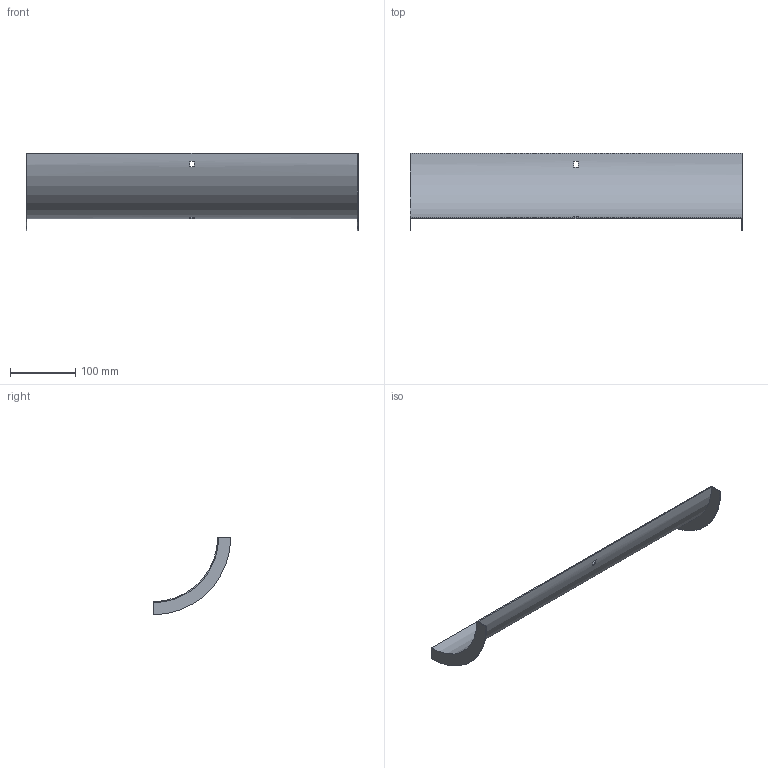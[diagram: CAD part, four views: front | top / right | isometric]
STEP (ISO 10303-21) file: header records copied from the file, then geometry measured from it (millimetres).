
FILE_DESCRIPTION (( 'STEP AP214' ), '1' );
FILE_NAME ('30N1R500.step', '2025-02-21T09:24:11', ( '' ), ( '' ), 'SwSTEP 2.0', 'SolidWorks 2023', '' );
FILE_SCHEMA (( 'AUTOMOTIVE_DESIGN' ));
Length unit declared in the file: millimetre
Products named in the file (1): 30N1R500
Bounding box: 507 x 118.5 x 118.5 mm (x, y, z)
Volume: 127909.4 mm3; surface area: 172827.1 mm2
Topology: 1 solids, 1 shells, 18 faces, 48 edges, 32 vertices
Faces by surface type: plane 14, cylinder 4
Entity records: 599 total; most frequent: DIRECTION 102, CARTESIAN_POINT 99, ORIENTED_EDGE 96, EDGE_CURVE 48, AXIS2_PLACEMENT_3D 35, VECTOR 32, VERTEX_POINT 32, LINE 32
